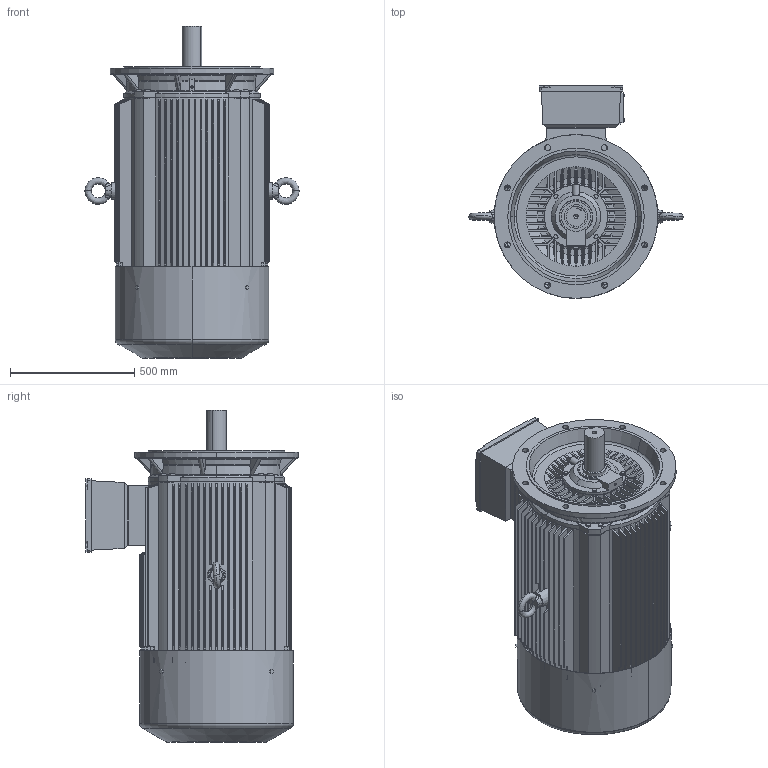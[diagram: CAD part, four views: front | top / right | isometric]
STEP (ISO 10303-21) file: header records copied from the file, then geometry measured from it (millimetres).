
FILE_DESCRIPTION (( 'STEP AP203' ), '1' );
FILE_NAME ('TE3-315ML-4,6,8 V1.STEP', '2019-12-31T00:04:05', ( '微软用户' ), ( '微软中国' ), 'SwSTEP 2.0', 'SolidWorks 2012', '' );
FILE_SCHEMA (( 'CONFIG_CONTROL_DESIGN' ));
Length unit declared in the file: millimetre
Products named in the file (14): TE3-315ML-4,6,8 V1; YE3-315-4,6,8粣扥; Y2-315-4,6,8,10轴承外盖（轴伸）; hex head bolts-full thread grade c gb_GB_FASTENER_BOLT_HHBFTC M12X30-N; Y2-135 P24諉盄碟; hex head bolts-full thread grade c gb_GB_FASTENER_BOLT_HHBFTC M6X20-N; hex head bolts-full thread grade c gb_GB_FASTENER_BOLT_HHBFTC M10X20-N; 諉盄碟裔 WY315; 諉盄碟釱Y2-315; 蚐戚; eyebolts gb_GB_FASTENER_SCREWS_FRS M30-N; 8SLJ.306.00027（风罩YE3-315-4.6.8）; Y2-315-4,6,8凸缘端盖（带放油孔）; Y2-315ML 儂釱 V1
Assembly tree (32 placements, depth 3):
  TE3-315ML-4,6,8 V1
    Y2-315ML 儂釱 V1
    Y2-315-4,6,8凸缘端盖（带放油孔）
    8SLJ.306.00027（风罩YE3-315-4.6.8）
    eyebolts gb_GB_FASTENER_SCREWS_FRS M30-N  x3
    蚐戚
    Y2-135 P24諉盄碟
      諉盄碟釱Y2-315
      諉盄碟裔 WY315
      hex head bolts-full thread grade c gb_GB_FASTENER_BOLT_HHBFTC M10X20-N  x4
      hex head bolts-full thread grade c gb_GB_FASTENER_BOLT_HHBFTC M6X20-N  x4
    hex head bolts-full thread grade c gb_GB_FASTENER_BOLT_HHBFTC M12X30-N  x8
    hex head bolts-full thread grade c gb_GB_FASTENER_BOLT_HHBFTC M10X20-N  x4
    Y2-315-4,6,8,10轴承外盖（轴伸）
    YE3-315-4,6,8粣扥
Bounding box: 863.4 x 857.4 x 1338 mm (x, y, z)
Volume: 228863459.6 mm3; surface area: 8906648.6 mm2
Topology: 32 solids, 32 shells, 9319 faces, 24702 edges, 16409 vertices
Faces by surface type: plane 4912, cylinder 3732, cone 362, bspline 189, torus 122, sphere 2
Entity records: 326347 total; most frequent: CARTESIAN_POINT 97198, DIRECTION 47641, ORIENTED_EDGE 47506, EDGE_CURVE 23753, AXIS2_PLACEMENT_3D 16459, VERTEX_POINT 15832, LINE 14723, VECTOR 14723
